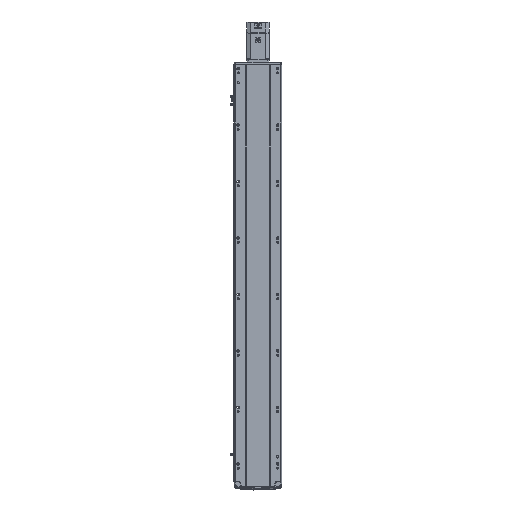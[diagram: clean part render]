
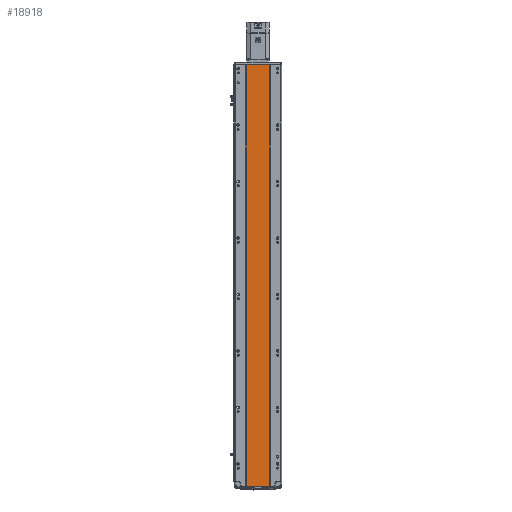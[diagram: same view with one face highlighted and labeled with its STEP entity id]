
A CAD part, front view. The second image highlights one B-rep face of the part: STEP entity #18918.
In plain terms, the highlighted planar face has unit normal (0, -1, 0).
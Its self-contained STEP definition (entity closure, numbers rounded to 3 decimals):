
#386 = LINE ( 'NONE', #6467, #33368 ) ;
#694 = FACE_OUTER_BOUND ( 'NONE', #12143, .T. ) ;
#6467 = CARTESIAN_POINT ( 'NONE',  ( 0., 0.999, 1493.5 ) ) ;
#7734 = DIRECTION ( 'NONE',  ( 0., 0., -1. ) ) ;
#8134 = VERTEX_POINT ( 'NONE', #18486 ) ;
#10708 = DIRECTION ( 'NONE',  ( 1., 0., 0. ) ) ;
#12143 = EDGE_LOOP ( 'NONE', ( #15003, #32383, #53053, #53585 ) ) ;
#15003 = ORIENTED_EDGE ( 'NONE', *, *, #41016, .T. ) ;
#16924 = CARTESIAN_POINT ( 'NONE',  ( 41.793, 0.998, 0. ) ) ;
#16945 = LINE ( 'NONE', #38692, #26769 ) ;
#17029 = EDGE_CURVE ( 'NONE', #39623, #50291, #16945, .T. ) ;
#17250 = EDGE_CURVE ( 'NONE', #39623, #8134, #386, .T. ) ;
#18486 = CARTESIAN_POINT ( 'NONE',  ( 41.793, 0.998, 1493.5 ) ) ;
#18918 = ADVANCED_FACE ( 'NONE', ( #694 ), #51363, .F. ) ;
#18919 = CARTESIAN_POINT ( 'NONE',  ( -41.791, 1., 1493.5 ) ) ;
#21065 = AXIS2_PLACEMENT_3D ( 'NONE', #46778, #30196, #42514 ) ;
#22636 = VECTOR ( 'NONE', #45534, 1000. ) ;
#26769 = VECTOR ( 'NONE', #44033, 1000. ) ;
#30196 = DIRECTION ( 'NONE',  ( 0., 1., 0. ) ) ;
#31217 = VERTEX_POINT ( 'NONE', #16924 ) ;
#31455 = CARTESIAN_POINT ( 'NONE',  ( -41.791, 1., 0. ) ) ;
#32383 = ORIENTED_EDGE ( 'NONE', *, *, #51196, .F. ) ;
#32481 = VECTOR ( 'NONE', #7734, 1000. ) ;
#33368 = VECTOR ( 'NONE', #10708, 1000. ) ;
#35784 = LINE ( 'NONE', #40178, #32481 ) ;
#38692 = CARTESIAN_POINT ( 'NONE',  ( -41.791, 1., 1493.5 ) ) ;
#39113 = LINE ( 'NONE', #48532, #22636 ) ;
#39623 = VERTEX_POINT ( 'NONE', #18919 ) ;
#40178 = CARTESIAN_POINT ( 'NONE',  ( 41.793, 0.998, 1493.5 ) ) ;
#41016 = EDGE_CURVE ( 'NONE', #50291, #31217, #39113, .T. ) ;
#42514 = DIRECTION ( 'NONE',  ( -1., 0., 0. ) ) ;
#44033 = DIRECTION ( 'NONE',  ( 0., 0., -1. ) ) ;
#45534 = DIRECTION ( 'NONE',  ( 1., 0., 0. ) ) ;
#46778 = CARTESIAN_POINT ( 'NONE',  ( 0., 0.999, 1493.5 ) ) ;
#48532 = CARTESIAN_POINT ( 'NONE',  ( 0., 0.999, 0. ) ) ;
#50291 = VERTEX_POINT ( 'NONE', #31455 ) ;
#51196 = EDGE_CURVE ( 'NONE', #8134, #31217, #35784, .T. ) ;
#51363 = PLANE ( 'NONE',  #21065 ) ;
#53053 = ORIENTED_EDGE ( 'NONE', *, *, #17250, .F. ) ;
#53585 = ORIENTED_EDGE ( 'NONE', *, *, #17029, .T. ) ;
